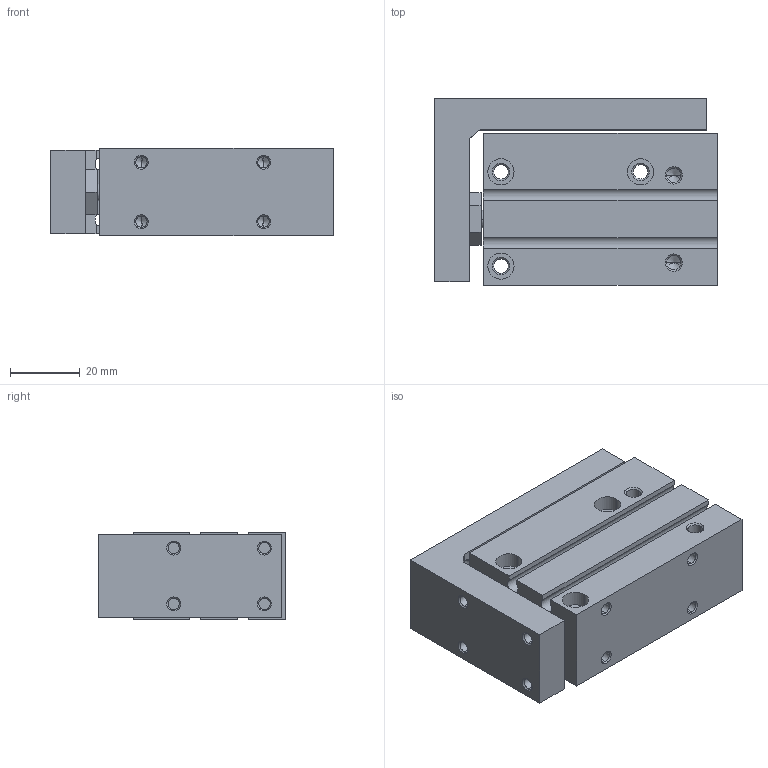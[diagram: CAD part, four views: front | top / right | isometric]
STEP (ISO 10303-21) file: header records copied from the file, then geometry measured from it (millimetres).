
FILE_DESCRIPTION (( 'STEP AP203' ), '1' );
FILE_NAME ('CXH16-25.STEP', '2020-04-16T18:11:24', ( '' ), ( '' ), 'SwSTEP 2.0', 'SolidWorks 2019', '' );
FILE_SCHEMA (( 'CONFIG_CONTROL_DESIGN' ));
Length unit declared in the file: millimetre
Products named in the file (1): CXH16-25
Bounding box: 81 x 53.5 x 25 mm (x, y, z)
Volume: 88266.2 mm3; surface area: 29186.8 mm2
Topology: 2 solids, 2 shells, 208 faces, 495 edges, 286 vertices
Faces by surface type: cone 88, cylinder 76, plane 44
Entity records: 5928 total; most frequent: DIRECTION 1093, CARTESIAN_POINT 1004, ORIENTED_EDGE 934, EDGE_CURVE 467, AXIS2_PLACEMENT_3D 421, VERTEX_POINT 286, EDGE_LOOP 253, VECTOR 251
